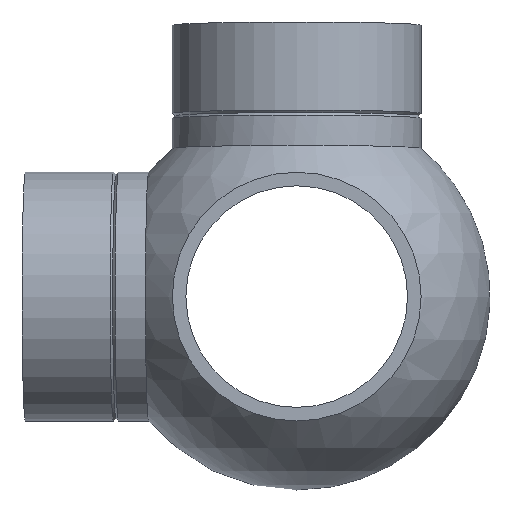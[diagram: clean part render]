
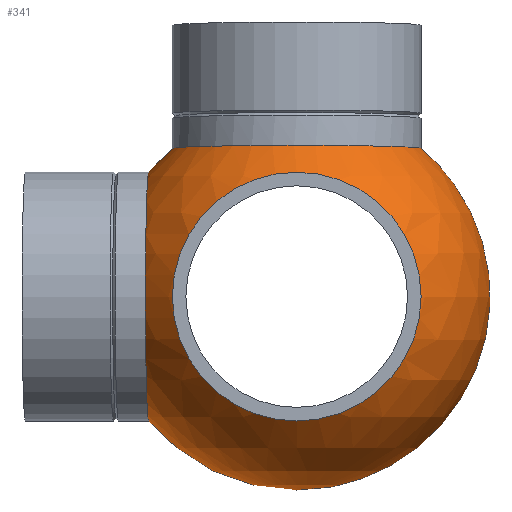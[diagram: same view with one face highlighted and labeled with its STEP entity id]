
A CAD part, front view. The second image highlights one B-rep face of the part: STEP entity #341.
In plain terms, the highlighted spherical face has radius 85.5 mm.
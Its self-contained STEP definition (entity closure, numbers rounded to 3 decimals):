
#13=SPHERICAL_SURFACE($,#398,85.5);
#59=FACE_BOUND($,#137,.T.);
#60=FACE_BOUND($,#138,.T.);
#61=FACE_BOUND($,#139,.T.);
#85=FACE_OUTER_BOUND($,#136,.T.);
#136=EDGE_LOOP($,(#276));
#137=EDGE_LOOP($,(#277));
#138=EDGE_LOOP($,(#278));
#139=EDGE_LOOP($,(#279));
#147=CIRCLE($,#355,55.);
#152=CIRCLE($,#365,55.);
#164=CIRCLE($,#387,55.);
#169=CIRCLE($,#397,55.);
#175=VERTEX_POINT($,#525);
#180=VERTEX_POINT($,#540);
#192=VERTEX_POINT($,#574);
#197=VERTEX_POINT($,#589);
#203=EDGE_CURVE($,#175,#175,#147,.T.);
#208=EDGE_CURVE($,#180,#180,#152,.T.);
#220=EDGE_CURVE($,#192,#192,#164,.T.);
#225=EDGE_CURVE($,#197,#197,#169,.T.);
#276=ORIENTED_EDGE($,*,*,#203,.T.);
#277=ORIENTED_EDGE($,*,*,#208,.T.);
#278=ORIENTED_EDGE($,*,*,#220,.T.);
#279=ORIENTED_EDGE($,*,*,#225,.T.);
#341=ADVANCED_FACE($,(#85,#59,#60,#61),#13,.T.);
#355=AXIS2_PLACEMENT_3D($,#526,#420,#421);
#365=AXIS2_PLACEMENT_3D($,#541,#440,#441);
#387=AXIS2_PLACEMENT_3D($,#575,#484,#485);
#397=AXIS2_PLACEMENT_3D($,#590,#504,#505);
#398=AXIS2_PLACEMENT_3D($,#591,#506,#507);
#420=DIRECTION('center_axis',(0.,-0.026,
-1.));
#421=DIRECTION('ref_axis',(-1.,0.,0.));
#440=DIRECTION('center_axis',(1.,-0.026,0.));
#441=DIRECTION('ref_axis',(0.,0.,
-1.));
#484=DIRECTION('center_axis',(0.,1.,0.));
#485=DIRECTION('ref_axis',(1.,0.,0.));
#504=DIRECTION('center_axis',(0.,-1.,0.));
#505=DIRECTION('ref_axis',(1.,0.,0.));
#506=DIRECTION('center_axis',(0.,0.,1.));
#507=DIRECTION('ref_axis',(1.,0.,0.));
#525=CARTESIAN_POINT('',(55.,1.714,65.439));
#526=CARTESIAN_POINT('Origin',(0.,1.714,
65.439));
#540=CARTESIAN_POINT('',(-65.439,1.714,55.));
#541=CARTESIAN_POINT('Origin',(-65.439,1.714,0.));
#574=CARTESIAN_POINT('',(-55.,-65.462,0.));
#575=CARTESIAN_POINT('Origin',(0.,-65.462,0.));
#589=CARTESIAN_POINT('',(-55.,65.462,0.));
#590=CARTESIAN_POINT('Origin',(0.,65.462,0.));
#591=CARTESIAN_POINT('Origin',(0.,0.,0.));
